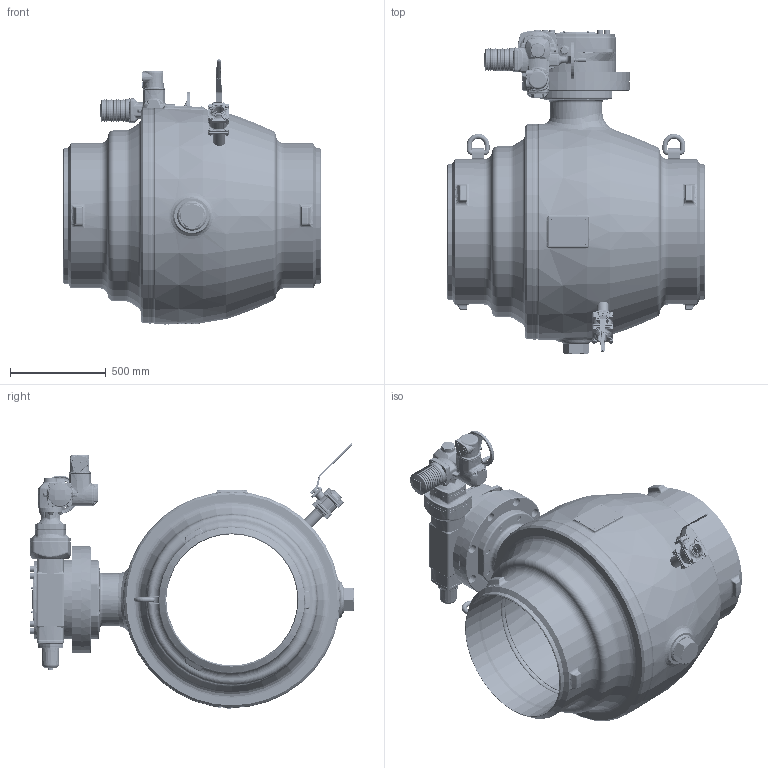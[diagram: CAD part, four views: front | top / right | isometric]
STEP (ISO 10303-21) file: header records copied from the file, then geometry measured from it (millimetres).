
FILE_DESCRIPTION((''),'2;1');
FILE_NAME('ASM0001_ASM','2026-01-28T11:25:33',('schwaba'),('KLINGER'),'CREO PARAMETRIC BY PTC INC, 2023014','CREO PARAMETRIC BY PTC INC, 2023014','');
FILE_SCHEMA(('CONFIG_CONTROL_DESIGN'));
Products named in the file (4): KHSVI_700_FR_WE_ENTL; GS200_864_F35_F10_DN800; SA10_2_F10_STD; ASM0001_ASM
Assembly tree (3 placements, depth 2):
  ASM0001_ASM
    KHSVI_700_FR_WE_ENTL
    GS200_864_F35_F10_DN800
    SA10_2_F10_STD
Bounding box: 1346 x 1695 x 1387.91 mm (x, y, z)
Volume: 384432390.5 mm3; surface area: 19980160.6 mm2
Topology: 7 solids, 11 shells, 7102 faces, 16932 edges, 9974 vertices
Faces by surface type: plane 1777, cylinder 1734, torus 1222, bspline 1219, cone 914, sphere 147, extrusion 53, revolution 36
Entity records: 402358 total; most frequent: CARTESIAN_POINT 248634, ORIENTED_EDGE 33584, DIRECTION 30231, EDGE_CURVE 16792, AXIS2_PLACEMENT_3D 12705, VERTEX_POINT 9974, EDGE_LOOP 7516, FACE_OUTER_BOUND 7102
